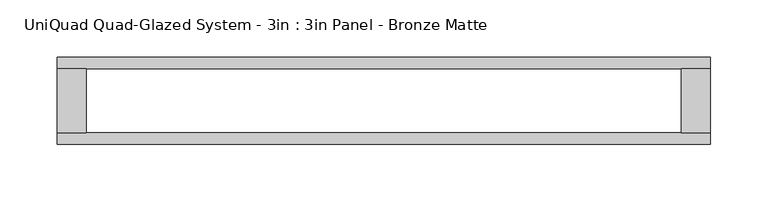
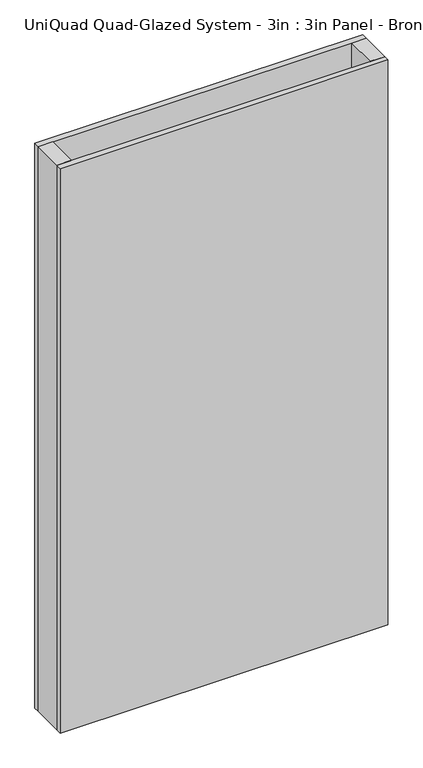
"""IFC4 building model written with IfcOpenShell, lengths in millimetres: plate geometry, UniQuad Quad-Glazed System - 3in : 3in Panel - Bronze Matte."""

import ifcopenshell
import ifcopenshell.guid

model = None  # the IFC model being written
_history = None  # IfcOwnerHistory: only IFC2X3 demands one
_inside = {}  # id of a spatial element -> (the spatial element, [elements in it])
_under = {}  # id of a project, library or spatial element -> (it, [spatial elements below it])
_declared = {}  # id of a project -> (the project, [libraries it declares])
_typed = {}  # id of a type object -> (the type object, [elements of that type])
_made_of = {}  # id of a material, layer set ... -> (it, [elements and type objects made of it])


def new_model(schema):
    """Start an empty IFC model of exactly this schema.

    Asked for "IFC4X3", IfcOpenShell would pick the latest addendum, in which some entities
    have other attributes; the version numbers below select the first issue.
    IFC2X3 requires an IfcOwnerHistory on every rooted entity: one is made here for all.
    """
    global model, _history
    if schema == "IFC4X3":
        model = ifcopenshell.file(schema_version=(4, 3, 0, 0))
    else:
        model = ifcopenshell.file(schema=schema)
    _inside.clear()
    _under.clear()
    _declared.clear()
    _typed.clear()
    _made_of.clear()
    _history = None
    if model.schema == "IFC2X3":
        org = make("IfcOrganization", Name="unknown")
        user = make(
            "IfcPersonAndOrganization",
            ThePerson=make("IfcPerson", FamilyName="unknown"),
            TheOrganization=org,
        )
        app = make(
            "IfcApplication",
            ApplicationDeveloper=org,
            Version="unknown",
            ApplicationFullName="unknown",
            ApplicationIdentifier="unknown",
        )
        _history = make(
            "IfcOwnerHistory",
            OwningUser=user,
            OwningApplication=app,
            ChangeAction="ADDED",
            CreationDate=0,
        )
    return model


def make(cls, **values):
    """One entity of the class cls with the attributes given. An attribute that is None is left unset."""
    return model.create_entity(
        cls, **{name: value for name, value in values.items() if value is not None}
    )


def rooted(cls, **values):
    """An entity with a GlobalId (a new one), such as an element, a storey or a relation."""
    return make(cls, GlobalId=ifcopenshell.guid.new(), OwnerHistory=_history, **values)


def si_unit(unit_type, name, prefix=None):
    """IfcSIUnit, for example si_unit("LENGTHUNIT", "METRE", prefix="MILLI")."""
    return make("IfcSIUnit", UnitType=unit_type, Prefix=prefix, Name=name)


def assignment(units):
    """IfcUnitAssignment: the units of a project."""
    return None if units is None else make("IfcUnitAssignment", Units=units)


def point(xyz):
    """IfcCartesianPoint."""
    return None if xyz is None else make("IfcCartesianPoint", Coordinates=xyz)


def direction(xyz):
    """IfcDirection."""
    return None if xyz is None else make("IfcDirection", DirectionRatios=xyz)


def frame(location, z_axis=None, x_axis=None):
    """IfcAxis2Placement3D, a coordinate frame: its origin and axes. An axis left out is left unset."""
    return make(
        "IfcAxis2Placement3D",
        Location=point(location),
        Axis=direction(z_axis),
        RefDirection=direction(x_axis),
    )


def origin():
    """The frame at (0, 0, 0) with its axes left unset."""
    return frame((0.0, 0.0, 0.0))


def origin_with_axes():
    """The frame at (0, 0, 0) with the z axis (0, 0, 1) and the x axis (1, 0, 0) written out."""
    return frame((0.0, 0.0, 0.0), z_axis=(0.0, 0.0, 1.0), x_axis=(1.0, 0.0, 0.0))


def place(relative_to, where):
    """IfcLocalPlacement: puts the frame where relative to a parent placement (None: the world)."""
    return make(
        "IfcLocalPlacement", PlacementRelTo=relative_to, RelativePlacement=where
    )


def context(
    kind, dimensions, precision=None, world=None, true_north=None, identifier=None
):
    """IfcGeometricRepresentationContext, for example the 3D "Model" context."""
    return make(
        "IfcGeometricRepresentationContext",
        ContextIdentifier=identifier,
        ContextType=kind,
        CoordinateSpaceDimension=dimensions,
        Precision=precision,
        WorldCoordinateSystem=world,
        TrueNorth=true_north,
    )


def project(units=None, contexts=None):
    """IfcProject with its units and contexts."""
    return rooted(
        "IfcProject",
        Name="project",
        RepresentationContexts=contexts,
        UnitsInContext=assignment(units),
    )


def spatial(cls, under=None, at=None, **own):
    """A site, building, storey or space (cls), placed at a placement, below another one or the project."""
    s = rooted(cls, ObjectPlacement=at, **own)
    if under is not None:
        _under.setdefault(under.id(), (under, []))[1].append(s)
    return s


def polyline(points):
    """IfcPolyline through the points."""
    return make("IfcPolyline", Points=[point(p) for p in points])


def outline(outer, holes=None, kind="AREA"):
    """IfcArbitraryClosedProfileDef: a profile drawn as a closed curve; with holes, ...WithVoids."""
    if holes is None:
        return make("IfcArbitraryClosedProfileDef", ProfileType=kind, OuterCurve=outer)
    return make(
        "IfcArbitraryProfileDefWithVoids",
        ProfileType=kind,
        OuterCurve=outer,
        InnerCurves=holes,
    )


def extrude(swept, where, along, depth):
    """IfcExtrudedAreaSolid: the profile swept, set in the frame where, extruded along a direction by depth."""
    return make(
        "IfcExtrudedAreaSolid",
        SweptArea=swept,
        Position=where,
        ExtrudedDirection=direction(along),
        Depth=depth,
    )


def shape(context_of_items, identifier, shape_type, items):
    """IfcShapeRepresentation: the items that make up one representation, for example the "Body"."""
    return make(
        "IfcShapeRepresentation",
        ContextOfItems=context_of_items,
        RepresentationIdentifier=identifier,
        RepresentationType=shape_type,
        Items=items,
    )


def source(mapping_origin, context_of_items, identifier, shape_type, items):
    """IfcRepresentationMap: a shape defined once, which mapped items show again and again."""
    return make(
        "IfcRepresentationMap",
        MappingOrigin=mapping_origin,
        MappedRepresentation=shape(context_of_items, identifier, shape_type, items),
    )


def transform(
    local_origin,
    x_axis=None,
    y_axis=None,
    z_axis=None,
    scale=None,
    scale2=None,
    scale3=None,
    uniform=True,
):
    """IfcCartesianTransformationOperator3D, or its non-uniform kind. x_axis, y_axis, z_axis: its Axis1, 2, 3."""
    if uniform:
        return make(
            "IfcCartesianTransformationOperator3D",
            Axis1=direction(x_axis),
            Axis2=direction(y_axis),
            LocalOrigin=point(local_origin),
            Scale=scale,
            Axis3=direction(z_axis),
        )
    return make(
        "IfcCartesianTransformationOperator3DnonUniform",
        Axis1=direction(x_axis),
        Axis2=direction(y_axis),
        LocalOrigin=point(local_origin),
        Scale=scale,
        Axis3=direction(z_axis),
        Scale2=scale2,
        Scale3=scale3,
    )


def mapped(mapping_source, mapping_target):
    """IfcMappedItem: shows the shape of a source again, moved by a transform."""
    return make(
        "IfcMappedItem", MappingSource=mapping_source, MappingTarget=mapping_target
    )


def made_of(thing, what):
    """Note that an element or type object is made of a material, layer set ...; save() writes the relation."""
    if what is not None:
        _made_of.setdefault(what.id(), (what, []))[1].append(thing)
    return thing


def element(
    cls,
    number,
    at=None,
    inside=None,
    cuts=None,
    type_object=None,
    material=None,
    context=None,
    identifier="Body",
    shape_type=None,
    held_by="IfcProductDefinitionShape",
    body=None,
    shapes=None,
    **own,
):
    """One element of the class cls, such as IfcWall. Its Tag is "e" and its number.

    at: its placement. inside: the storey or other place that contains it. cuts: it is an
    opening in that element (IfcRelVoidsElement). A single representation is given by context,
    identifier, shape_type and body (its items); several are given by shapes. held_by: the class
    of the entity that holds the representations. save() writes the other relations.
    """
    e = rooted(cls, Tag="e%d" % number, ObjectPlacement=at, **own)
    if body is not None:
        shapes = [shape(context, identifier, shape_type, body)]
    if shapes is not None:
        e.Representation = make(held_by, Representations=shapes)
    if inside is not None:
        _inside.setdefault(inside.id(), (inside, []))[1].append(e)
    if cuts is not None:
        rooted(
            "IfcRelVoidsElement", RelatingBuildingElement=cuts, RelatedOpeningElement=e
        )
    if type_object is not None:
        _typed.setdefault(type_object.id(), (type_object, []))[1].append(e)
    return made_of(e, material)


def aggregate(whole, parts):
    """IfcRelAggregates: a whole, such as a stair, and the parts it consists of."""
    return rooted("IfcRelAggregates", RelatingObject=whole, RelatedObjects=parts)


def save(model, path):
    """Write the relations noted so far, then the file.

    IfcRelAggregates (storeys below a building ...), IfcRelContainedInSpatialStructure (elements
    in a storey), IfcRelDefinesByType, IfcRelAssociatesMaterial and IfcRelDeclares: one each for
    every whole, place, type object, material and project.
    """
    for whole, parts in _under.values():
        aggregate(whole, parts)
    for where, things in _inside.values():
        rooted(
            "IfcRelContainedInSpatialStructure",
            RelatedElements=things,
            RelatingStructure=where,
        )
    for kind, things in _typed.values():
        rooted("IfcRelDefinesByType", RelatedObjects=things, RelatingType=kind)
    for what, things in _made_of.values():
        rooted("IfcRelAssociatesMaterial", RelatedObjects=things, RelatingMaterial=what)
    for by, libraries in _declared.values():
        rooted("IfcRelDeclares", RelatingContext=by, RelatedDefinitions=libraries)
    model.write(path)


def uniquad_quad_glazed_system_3in_3in_panel_bronze_matte_737278b4(model_context):
    return source(origin(), model_context, "Body", "SweptSolid", [
        extrude(outline(polyline([(286.0232769, 28.0924), (286.0232769, -28.0924), (260.6232769, -28.0924), (260.6232769, 28.0924), (286.0232769, 28.0924)])), origin_with_axes(), (0.0, 0.0, 1.0), 1041.4),
        extrude(outline(polyline([(-286.0232769, 28.0924), (-260.6232769, 28.0924), (-260.6232769, -28.0924), (-286.0232769, -28.0924), (-286.0232769, 28.0924)])), origin_with_axes(), (0.0, 0.0, 1.0), 1041.4),
        extrude(outline(polyline([(286.0232769, -28.0924), (286.0232769, -38.1), (-286.0232769, -38.1), (-286.0232769, -28.0924), (286.0232769, -28.0924)])), origin_with_axes(), (0.0, 0.0, 1.0), 1041.4),
        extrude(outline(polyline([(286.0232769, 38.1), (286.0232769, 28.0924), (-286.0232769, 28.0924), (-286.0232769, 38.1), (286.0232769, 38.1)])), origin_with_axes(), (0.0, 0.0, 1.0), 1041.4),
    ])


if __name__ == "__main__":
    model = new_model("IFC4")
    model_context = context("Model", 3, world=origin())
    ifc_project = project(units=[si_unit("LENGTHUNIT", "METRE", prefix="MILLI")], contexts=[model_context])
    site = spatial("IfcSite", under=ifc_project)
    building = spatial("IfcBuilding", under=site)
    placement = place(None, origin())
    uniquad_quad_glazed_system_3in_3in_panel_bronze_matte_shape = uniquad_quad_glazed_system_3in_3in_panel_bronze_matte_737278b4(model_context)
    element("IfcPlate", 1, ObjectType="UniQuad Quad-Glazed System - 3in : 3in Panel - Bronze Matte", at=placement, inside=building, context=model_context, shape_type="MappedRepresentation", body=[
        mapped(uniquad_quad_glazed_system_3in_3in_panel_bronze_matte_shape, transform((0.0, 0.0, 0.0), x_axis=(1.0, 0.0, 0.0), y_axis=(0.0, 1.0, 0.0), z_axis=(0.0, 0.0, 1.0))),
    ])
    save(model, "model.ifc")
